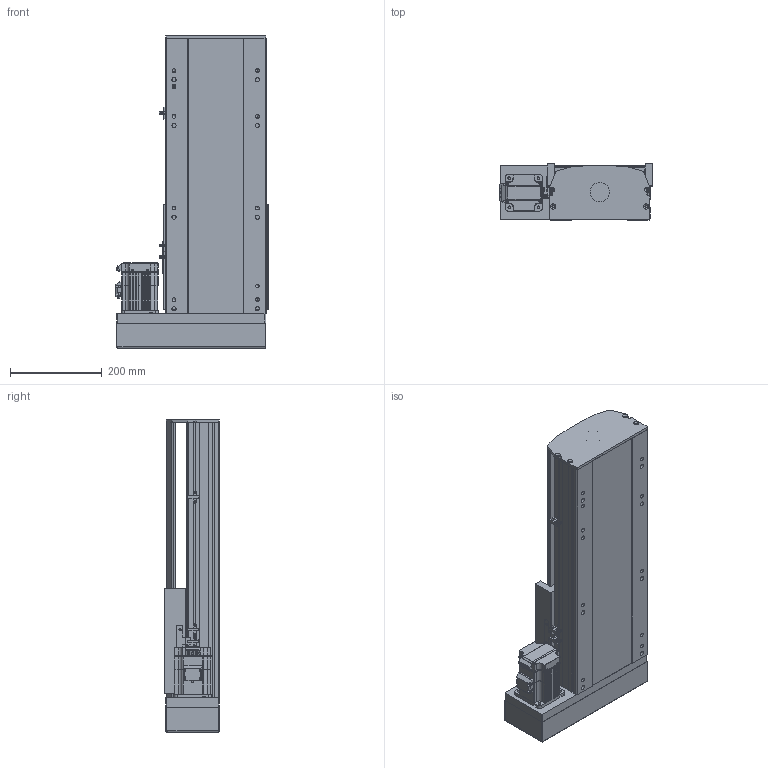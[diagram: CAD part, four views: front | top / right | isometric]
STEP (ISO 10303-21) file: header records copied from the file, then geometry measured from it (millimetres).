
FILE_DESCRIPTION (( 'STEP AP214' ), '1' );
FILE_NAME ('QTH22-300-BL-P75.STEP', '2021-11-13T10:18:37', ( '' ), ( '' ), 'SwSTEP 2.0', 'SolidWorks 2020', '' );
FILE_SCHEMA (( 'AUTOMOTIVE_DESIGN' ));
Length unit declared in the file: millimetre
Products named in the file (6): QTH22-300-BL-P75; 葩璃 MSMD08PC_P75^QTH22-BL-P75; 葩璃 QTH22-BL-001 菁釱MZ-220-01^QTH22-BL-P75; 葩璃 pm-t65-672^QTH22-BL-P75; 葩璃 QTH22-BL-002 奻裔MZ-220-02^QTH22-BL-P75; 葩璃 QTH22-BC-005 賑釱MZ-220-03^QTH22-BL-P75_SFA25
Assembly tree (7 placements, depth 2):
  QTH22-300-BL-P75
    葩璃 QTH22-BL-001 菁釱MZ-220-01^QTH22-BL-P75
    葩璃 QTH22-BL-002 奻裔MZ-220-02^QTH22-BL-P75
    葩璃 QTH22-BC-005 賑釱MZ-220-03^QTH22-BL-P75_SFA25
    葩璃 pm-t65-672^QTH22-BL-P75  x3
    葩璃 MSMD08PC_P75^QTH22-BL-P75
Bounding box: 333.5 x 122 x 682 mm (x, y, z)
Volume: 10709094.3 mm3; surface area: 1267103.5 mm2
Topology: 11 solids, 11 shells, 1513 faces, 4026 edges, 2587 vertices
Faces by surface type: plane 908, cylinder 509, cone 74, bspline 22
Entity records: 42233 total; most frequent: CARTESIAN_POINT 8895, DIRECTION 6721, ORIENTED_EDGE 6644, EDGE_CURVE 3322, LINE 2281, VECTOR 2281, AXIS2_PLACEMENT_3D 2220, VERTEX_POINT 2163
